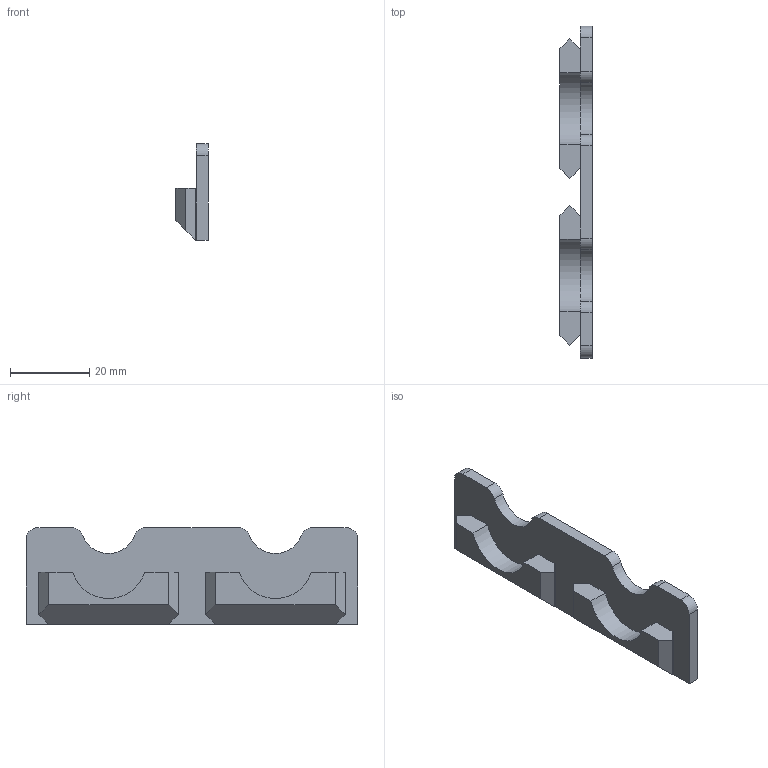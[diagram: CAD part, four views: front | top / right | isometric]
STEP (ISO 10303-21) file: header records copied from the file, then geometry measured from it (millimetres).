
FILE_DESCRIPTION(/* description */ ('','CAx-IF Rec.Pracs.---Representation and Presentation of Product Manufacturing Information (PMI)---4.0---2014-10-13'),/* implementation_level */ '2;1');
FILE_NAME(/* name */ 'Goews 2x Hanging Plate Blank.step',/* time_stamp */ '2024-11-28T09:34:54-05:00',/* author */ (''),/* organization */ (''),/* preprocessor_version */ 'ST-DEVELOPER v20',/* originating_system */ 'Autodesk Translation Framework v13.20.0.188',/* authorisation */ '');
FILE_SCHEMA (('AP242_MANAGED_MODEL_BASED_3D_ENGINEERING_MIM_LF { 1 0 10303 442 1 1 4 }'));
Length unit declared in the file: millimetre
Products named in the file (1): Goews 2x Hanging Plate Blank
Bounding box: 8.15 x 83.6 x 24.39 mm (x, y, z)
Volume: 8361.2 mm3; surface area: 5329.8 mm2
Topology: 1 solids, 1 shells, 40 faces, 104 edges, 68 vertices
Faces by surface type: plane 30, cylinder 10
Entity records: 1249 total; most frequent: CARTESIAN_POINT 213, ORIENTED_EDGE 208, DIRECTION 206, EDGE_CURVE 104, LINE 84, VECTOR 84, VERTEX_POINT 68, AXIS2_PLACEMENT_3D 61
